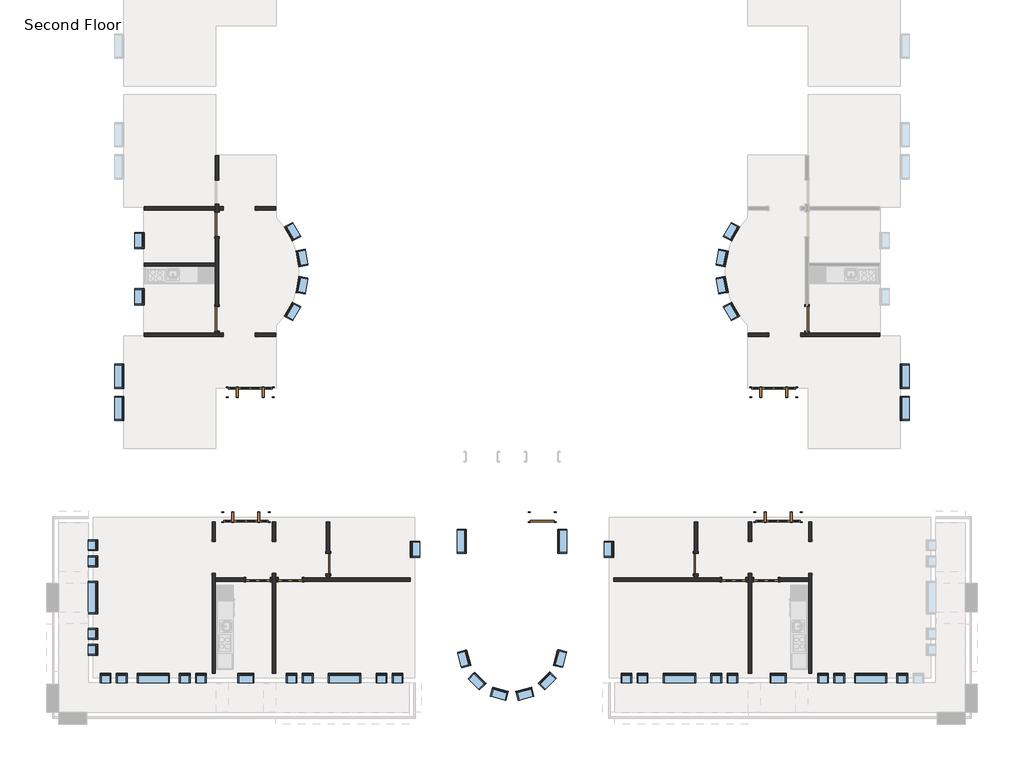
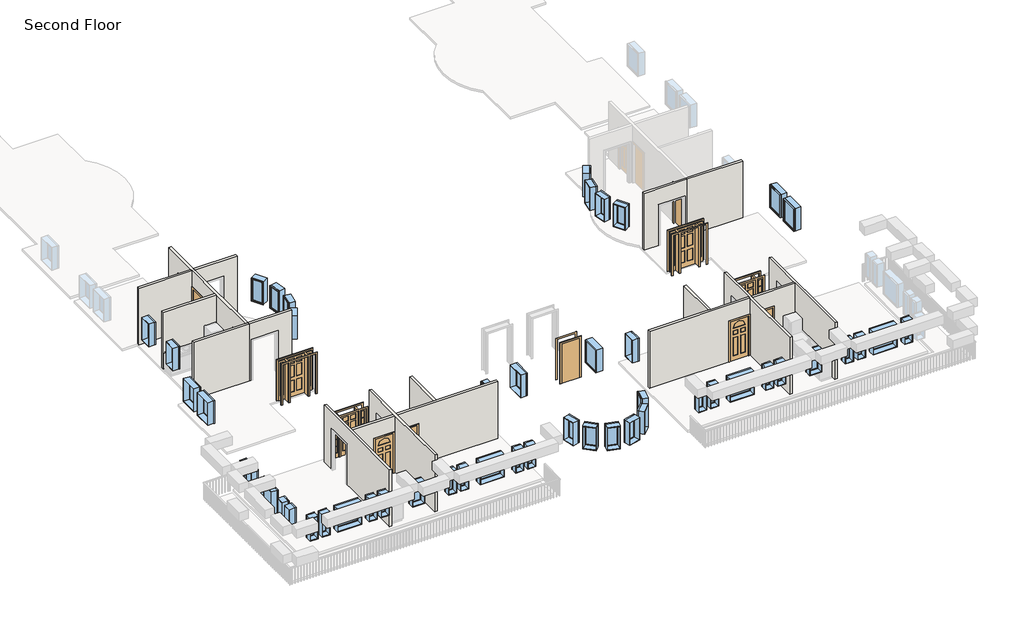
# One storey, part 1 of 4: 50 windows, 18 walls, 14 doors.
"""IFC4 building model written with IfcOpenShell, lengths in millimetres."""

from ifc_helpers import new_model, si_unit, frame, origin, place, context, project, spatial, polyline, outline, extrude, faceted_brep, transform, mapped, element, save
from components import door_829da954, door_2e3b4da2, door_4d6c7550, door_e36758a9, door_a1797ceb, door_a3eb833a, door_cc5399a4, door_dba5aa2e, door_ffdb1193, window_da97879f, window_d61ef850, window_60baf983, window_ed80354a, window_15c49d37, window_0e2fc6ce, window_6eb97611, window_d89bf842

model = new_model("IFC4")

# Units and contexts
model_context = context("Model", 3, world=origin())
ifc_project = project(units=[si_unit("LENGTHUNIT", "METRE", prefix="MILLI")], contexts=[model_context])

# Site, building, storey
site = spatial("IfcSite", under=ifc_project)
building = spatial("IfcBuilding", under=site)
storey = spatial("IfcBuildingStorey", under=building, Name="Second Floor", Elevation=3048.0)

# Doors
placement = place(None, origin())
door_shape = door_829da954(model_context)
element("IfcDoor", 1, ObjectType="Single-Decorative 2 : 36\" x 84\"", at=placement, inside=storey, context=model_context, shape_type="MappedRepresentation", body=[
    mapped(door_shape, transform((-6669.0589563, -30331.8808133, 3048.0), x_axis=(1.0, 0.0, 0.0), y_axis=(0.0, 1.0, 0.0), z_axis=(0.0, 0.0, 1.0))),
])
element("IfcDoor", 2, ObjectType="Single-Decorative 2 : 36\" x 84\"", at=placement, inside=storey, context=model_context, shape_type="MappedRepresentation", body=[
    mapped(door_shape, transform((-24674.4839563, -30331.8808133, 3048.0), x_axis=(1.0, 0.0, 0.0), y_axis=(0.0, 1.0, 0.0), z_axis=(0.0, 0.0, 1.0))),
])
door_2_shape = door_2e3b4da2(model_context)
element("IfcDoor", 3, ObjectType="Single-Decorative 2 : 36\" x 84\"", at=placement, inside=storey, context=model_context, shape_type="MappedRepresentation", body=[
    mapped(door_2_shape, transform((-5449.8589563, -30331.8808133, 3048.0), x_axis=(-1.0, 0.0, 0.0), y_axis=(0.0, -1.0, 0.0), z_axis=(0.0, 0.0, 1.0))),
])
element("IfcDoor", 4, ObjectType="Single-Decorative 2 : 36\" x 84\"", at=placement, inside=storey, context=model_context, shape_type="MappedRepresentation", body=[
    mapped(door_2_shape, transform((-23455.2839563, -30331.8808133, 3048.0), x_axis=(-1.0, 0.0, 0.0), y_axis=(0.0, -1.0, 0.0), z_axis=(0.0, 0.0, 1.0))),
])
door_3_shape = door_4d6c7550(model_context)
element("IfcDoor", 5, ObjectType="Single-Flush : 30\" x 84\"", at=placement, inside=storey, context=model_context, shape_type="MappedRepresentation", body=[
    mapped(door_3_shape, transform((-22018.5964563, -29722.2808133, 3048.0), x_axis=(0.0, -1.0, 0.0), y_axis=(1.0, 0.0, 0.0), z_axis=(0.0, 0.0, 1.0))),
])
door_4_shape = door_e36758a9(model_context)
element("IfcDoor", 6, ObjectType="Single-Flush : 30\" x 84\"", at=placement, inside=storey, context=model_context, shape_type="MappedRepresentation", body=[
    mapped(door_4_shape, transform((-8105.7464563, -29722.2808133, 3048.0), x_axis=(0.0, -1.0, 0.0), y_axis=(1.0, 0.0, 0.0), z_axis=(0.0, 0.0, 1.0))),
])
door_5_shape = door_a1797ceb(model_context)
element("IfcDoor", 7, ObjectType="Single-Flush : 36\" x 84\"", at=placement, inside=storey, context=model_context, shape_type="MappedRepresentation", body=[
    mapped(door_5_shape, transform((-3900.4589563, -20451.2808133, 3048.0), x_axis=(0.0, -1.0, 0.0), y_axis=(1.0, 0.0, 0.0), z_axis=(0.0, 0.0, 1.0))),
])
element("IfcDoor", 8, ObjectType="Single-Flush : 36\" x 84\"", at=placement, inside=storey, context=model_context, shape_type="MappedRepresentation", body=[
    mapped(door_5_shape, transform((-26223.8839563, -16873.0558133, 3048.0), x_axis=(0.0, 1.0, 0.0), y_axis=(-1.0, 0.0, 0.0), z_axis=(0.0, 0.0, 1.0))),
])
door_6_shape = door_a3eb833a(model_context)
element("IfcDoor", 9, ObjectType="Single-Flush : 36\" x 84\"", at=placement, inside=storey, context=model_context, shape_type="MappedRepresentation", body=[
    mapped(door_6_shape, transform((-26223.8839563, -20451.2808133, 3048.0), x_axis=(0.0, -1.0, 0.0), y_axis=(1.0, 0.0, 0.0), z_axis=(0.0, 0.0, 1.0))),
])
door_7_shape = door_cc5399a4(model_context)
element("IfcDoor", 10, ObjectType="Single-Flush : 36\" x 84\"", at=placement, inside=storey, context=model_context, shape_type="MappedRepresentation", body=[
    mapped(door_7_shape, transform((-13919.1714563, -27958.5683133, 3048.0), x_axis=(1.0, 0.0, 0.0), y_axis=(0.0, 1.0, 0.0), z_axis=(0.0, 0.0, 1.0))),
])
door_8_shape = door_dba5aa2e(model_context)
element("IfcDoor", 11, ObjectType="Single-Raised Panel with Sidelights : 36\" x 84\"", at=placement, inside=storey, context=model_context, shape_type="MappedRepresentation", body=[
    mapped(door_8_shape, transform((-5156.1714563, -23234.1683133, 3048.0), x_axis=(-1.0, 0.0, 0.0), y_axis=(0.0, -1.0, 0.0), z_axis=(0.0, 0.0, 1.0))),
])
element("IfcDoor", 12, ObjectType="Single-Raised Panel with Sidelights : 36\" x 84\"", at=placement, inside=storey, context=model_context, shape_type="MappedRepresentation", body=[
    mapped(door_8_shape, transform((-25131.6839563, -27958.5683133, 3048.0), x_axis=(1.0, 0.0, 0.0), y_axis=(0.0, 1.0, 0.0), z_axis=(0.0, 0.0, 1.0))),
])
door_9_shape = door_ffdb1193(model_context)
element("IfcDoor", 13, ObjectType="Single-Raised Panel with Sidelights : 36\" x 84\"", at=placement, inside=storey, context=model_context, shape_type="MappedRepresentation", body=[
    mapped(door_9_shape, transform((-4992.6589563, -27958.5683133, 3048.0), x_axis=(-1.0, 0.0, 0.0), y_axis=(0.0, -1.0, 0.0), z_axis=(0.0, 0.0, 1.0))),
])
element("IfcDoor", 14, ObjectType="Single-Raised Panel with Sidelights : 36\" x 84\"", at=placement, inside=storey, context=model_context, shape_type="MappedRepresentation", body=[
    mapped(door_9_shape, transform((-24968.1714563, -23234.1683133, 3048.0), x_axis=(1.0, 0.0, 0.0), y_axis=(0.0, 1.0, 0.0), z_axis=(0.0, 0.0, 1.0))),
])

# Walls
element("IfcWall", 15, ObjectType="Interior - 5\" Partition (2-hr)", at=placement, inside=storey, context=model_context, shape_type="Brep", body=[
    faceted_brep([(-3709.9589563, -33878.3558133, 3048.0), (-3709.9589563, -30092.1683133, 3048.0), (-3709.9589563, -30092.1683133, 5181.6), (-3709.9589563, -28872.9683133, 5181.6), (-3709.9589563, -28872.9683133, 3048.0), (-3709.9589563, -28134.7808133, 3048.0), (-3709.9589563, -28134.7808133, 6096.0), (-3709.9589563, -33878.3558133, 6096.0), (-3836.9589563, -30092.1683133, 5181.6), (-3836.9589563, -30092.1683133, 3048.0), (-3836.9589563, -30268.3808133, 3048.0), (-3836.9589563, -30395.3808133, 3048.0), (-3836.9589563, -33878.3558133, 3048.0), (-3836.9589563, -33878.3558133, 6096.0), (-3836.9589563, -30395.3808133, 6096.0), (-3836.9589563, -30268.3808133, 6096.0), (-3836.9589563, -28134.7808133, 6096.0), (-3836.9589563, -28134.7808133, 3048.0), (-3836.9589563, -28872.9683133, 3048.0), (-3836.9589563, -28872.9683133, 5181.6)], [[[0, 1, 2, 3, 4, 5, 6, 7]], [[8, 9, 10, 11, 12, 13, 14, 15, 16, 17, 18, 19]], [[12, 11, 10, 9, 1, 0]], [[18, 17, 5, 4]], [[7, 6, 16, 15, 14, 13]], [[0, 7, 13, 12]], [[6, 5, 17, 16]], [[4, 3, 19, 18]], [[2, 1, 9, 8]], [[3, 2, 8, 19]]]),
])
element("IfcWall", 16, ObjectType="Interior - 5\" Partition (2-hr)", at=placement, inside=storey, context=model_context, shape_type="Brep", body=[
    faceted_brep([(-5995.9589563, -28872.9683133, 5181.6), (-5995.9589563, -28872.9683133, 3048.0), (-5995.9589563, -28134.7808133, 3048.0), (-5995.9589563, -28134.7808133, 6096.0), (-5995.9589563, -30268.3808133, 6096.0), (-5995.9589563, -30395.3808133, 6096.0), (-5995.9589563, -33878.3558133, 6096.0), (-5995.9589563, -33878.3558133, 3048.0), (-5995.9589563, -30395.3808133, 3048.0), (-5995.9589563, -30268.3808133, 3048.0), (-5995.9589563, -30092.1683133, 3048.0), (-5995.9589563, -30092.1683133, 5181.6), (-6122.9589563, -28134.7808133, 3048.0), (-6122.9589563, -28872.9683133, 3048.0), (-6122.9589563, -28872.9683133, 5181.6), (-6122.9589563, -30092.1683133, 5181.6), (-6122.9589563, -30092.1683133, 3048.0), (-6122.9589563, -30268.3808133, 3048.0), (-6122.9589563, -30395.3808133, 3048.0), (-6122.9589563, -33878.3558133, 3048.0), (-6122.9589563, -33878.3558133, 6096.0), (-6122.9589563, -30395.3808133, 6096.0), (-6122.9589563, -30268.3808133, 6096.0), (-6122.9589563, -28134.7808133, 6096.0)], [[[0, 1, 2, 3, 4, 5, 6, 7, 8, 9, 10, 11]], [[12, 13, 14, 15, 16, 17, 18, 19, 20, 21, 22, 23]], [[2, 1, 13, 12]], [[10, 9, 8, 7, 19, 18, 17, 16]], [[6, 5, 4, 3, 23, 22, 21, 20]], [[7, 6, 20, 19]], [[3, 2, 12, 23]], [[16, 15, 11, 10]], [[14, 13, 1, 0]], [[15, 14, 0, 11]]]),
])
element("IfcWall", 17, ObjectType="Interior - 5\" Partition (2-hr)", at=placement, inside=storey, context=model_context, shape_type="Brep", body=[
    faceted_brep([(-6211.8589563, -30395.3808133, 5181.6), (-6211.8589563, -30395.3808133, 3048.0), (-6122.9589563, -30395.3808133, 3048.0), (-6122.9589563, -30395.3808133, 6096.0), (-11217.2464563, -30395.3808133, 6096.0), (-11217.2464563, -30395.3808133, 3048.0), (-7126.2589563, -30395.3808133, 3048.0), (-7126.2589563, -30395.3808133, 5181.6), (-6122.9589563, -30268.3808133, 3048.0), (-6211.8589563, -30268.3808133, 3048.0), (-6211.8589563, -30268.3808133, 5181.6), (-7126.2589563, -30268.3808133, 5181.6), (-7126.2589563, -30268.3808133, 3048.0), (-8042.2464563, -30268.3808133, 3048.0), (-8169.2464563, -30268.3808133, 3048.0), (-11217.2464563, -30268.3808133, 3048.0), (-11217.2464563, -30268.3808133, 6096.0), (-8169.2464563, -30268.3808133, 6096.0), (-8042.2464563, -30268.3808133, 6096.0), (-6122.9589563, -30268.3808133, 6096.0)], [[[0, 1, 2, 3, 4, 5, 6, 7]], [[8, 9, 10, 11, 12, 13, 14, 15, 16, 17, 18, 19]], [[2, 1, 9, 8]], [[6, 5, 15, 14, 13, 12]], [[4, 3, 19, 18, 17, 16]], [[3, 2, 8, 19]], [[5, 4, 16, 15]], [[10, 9, 1, 0]], [[11, 10, 0, 7]], [[12, 11, 7, 6]]]),
])
element("IfcWall", 18, ObjectType="Interior - 5\" Partition (2-hr)", at=placement, inside=storey, context=model_context, shape_type="SweptSolid", body=[
    extrude(outline(polyline([(-30103.2808133, 5181.6), (-30103.2808133, 3048.0), (-30268.3808133, 3048.0), (-30268.3808133, 6096.0), (-28134.7808133, 6096.0), (-28134.7808133, 3048.0), (-29341.2808133, 3048.0), (-29341.2808133, 5181.6), (-30103.2808133, 5181.6)])), frame((-8169.2464563, 0.0, 0.0), z_axis=(1.0, 0.0, 0.0), x_axis=(0.0, 1.0, 0.0)), (0.0, 0.0, 1.0), 127.0),
])
element("IfcWall", 19, ObjectType="Interior - 5\" Partition (2-hr)", at=placement, inside=storey, context=model_context, shape_type="SweptSolid", body=[
    extrude(outline(polyline([(3048.0, -5995.9589563), (3048.0, -5907.0589563), (5181.6, -5907.0589563), (5181.6, -4992.6589563), (3048.0, -4992.6589563), (3048.0, -3836.9589563), (6096.0, -3836.9589563), (6096.0, -5995.9589563), (3048.0, -5995.9589563)])), frame((0.0, -30395.3808133, 0.0), z_axis=(0.0, 1.0, 0.0), x_axis=(0.0, 0.0, 1.0)), (0.0, 0.0, 1.0), 127.0),
])
element("IfcWall", 20, ObjectType="Interior - 5\" Partition (2-hr)", at=placement, inside=storey, context=model_context, shape_type="Brep", body=[
    faceted_brep([(-1141.3839563, -20997.3808133, 3048.0), (-3836.9589563, -20997.3808133, 3048.0), (-3963.9589563, -20997.3808133, 3048.0), (-3963.9589563, -20997.3808133, 6096.0), (-3836.9589563, -20997.3808133, 6096.0), (-1141.3839563, -20997.3808133, 6096.0), (-1141.3839563, -21124.3808133, 3048.0), (-1141.3839563, -21124.3808133, 6096.0), (-3963.9589563, -21124.3808133, 6096.0), (-3963.9589563, -21124.3808133, 3048.0)], [[[0, 1, 2, 3, 4, 5]], [[6, 7, 8, 9]], [[2, 1, 0, 6, 9]], [[5, 4, 3, 8, 7]], [[3, 2, 9, 8]], [[0, 5, 7, 6]]]),
])
element("IfcWall", 21, ObjectType="Interior - 5\" Partition (2-hr)", at=placement, inside=storey, context=model_context, shape_type="SweptSolid", body=[
    extrude(outline(polyline([(5181.6, -4129.0589563), (3048.0, -4129.0589563), (3048.0, -3963.9589563), (6096.0, -3963.9589563), (6096.0, -6122.9589563), (3048.0, -6122.9589563), (3048.0, -5348.2589563), (5181.6, -5348.2589563), (5181.6, -4129.0589563)])), frame((0.0, -21124.3808133, 0.0), z_axis=(0.0, 1.0, 0.0), x_axis=(0.0, 0.0, 1.0)), (0.0, 0.0, 1.0), 127.0),
])
element("IfcWall", 22, ObjectType="Interior - 5\" Partition (2-hr)", at=placement, inside=storey, context=model_context, shape_type="Brep", body=[
    faceted_brep([(-26287.3839563, -33878.3558133, 3048.0), (-26287.3839563, -30395.3808133, 3048.0), (-26287.3839563, -30268.3808133, 3048.0), (-26287.3839563, -30092.1683133, 3048.0), (-26287.3839563, -30092.1683133, 5181.6), (-26287.3839563, -28872.9683133, 5181.6), (-26287.3839563, -28872.9683133, 3048.0), (-26287.3839563, -28134.7808133, 3048.0), (-26287.3839563, -28134.7808133, 6096.0), (-26287.3839563, -30268.3808133, 6096.0), (-26287.3839563, -30395.3808133, 6096.0), (-26287.3839563, -33878.3558133, 6096.0), (-26414.3839563, -30092.1683133, 5181.6), (-26414.3839563, -30092.1683133, 3048.0), (-26414.3839563, -33878.3558133, 3048.0), (-26414.3839563, -33878.3558133, 6096.0), (-26414.3839563, -28134.7808133, 6096.0), (-26414.3839563, -28134.7808133, 3048.0), (-26414.3839563, -28872.9683133, 3048.0), (-26414.3839563, -28872.9683133, 5181.6)], [[[0, 1, 2, 3, 4, 5, 6, 7, 8, 9, 10, 11]], [[12, 13, 14, 15, 16, 17, 18, 19]], [[14, 13, 3, 2, 1, 0]], [[18, 17, 7, 6]], [[11, 10, 9, 8, 16, 15]], [[0, 11, 15, 14]], [[8, 7, 17, 16]], [[6, 5, 19, 18]], [[4, 3, 13, 12]], [[5, 4, 12, 19]]]),
])
element("IfcWall", 23, ObjectType="Interior - 5\" Partition (2-hr)", at=placement, inside=storey, context=model_context, shape_type="Brep", body=[
    faceted_brep([(-24001.3839563, -28872.9683133, 5181.6), (-24001.3839563, -28872.9683133, 3048.0), (-24001.3839563, -28134.7808133, 3048.0), (-24001.3839563, -28134.7808133, 6096.0), (-24001.3839563, -30268.3808133, 6096.0), (-24001.3839563, -30395.3808133, 6096.0), (-24001.3839563, -33878.3558133, 6096.0), (-24001.3839563, -33878.3558133, 3048.0), (-24001.3839563, -30395.3808133, 3048.0), (-24001.3839563, -30268.3808133, 3048.0), (-24001.3839563, -30092.1683133, 3048.0), (-24001.3839563, -30092.1683133, 5181.6), (-24128.3839563, -28134.7808133, 3048.0), (-24128.3839563, -28872.9683133, 3048.0), (-24128.3839563, -28872.9683133, 5181.6), (-24128.3839563, -30092.1683133, 5181.6), (-24128.3839563, -30092.1683133, 3048.0), (-24128.3839563, -30268.3808133, 3048.0), (-24128.3839563, -30395.3808133, 3048.0), (-24128.3839563, -33878.3558133, 3048.0), (-24128.3839563, -33878.3558133, 6096.0), (-24128.3839563, -30395.3808133, 6096.0), (-24128.3839563, -30268.3808133, 6096.0), (-24128.3839563, -28134.7808133, 6096.0)], [[[0, 1, 2, 3, 4, 5, 6, 7, 8, 9, 10, 11]], [[12, 13, 14, 15, 16, 17, 18, 19, 20, 21, 22, 23]], [[2, 1, 13, 12]], [[10, 9, 8, 7, 19, 18, 17, 16]], [[6, 5, 4, 3, 23, 22, 21, 20]], [[7, 6, 20, 19]], [[3, 2, 12, 23]], [[16, 15, 11, 10]], [[14, 13, 1, 0]], [[15, 14, 0, 11]]]),
])
element("IfcWall", 24, ObjectType="Interior - 5\" Partition (2-hr)", at=placement, inside=storey, context=model_context, shape_type="Brep", body=[
    faceted_brep([(-23912.4839563, -30268.3808133, 5181.6), (-23912.4839563, -30268.3808133, 3048.0), (-24001.3839563, -30268.3808133, 3048.0), (-24001.3839563, -30268.3808133, 6096.0), (-22082.0964563, -30268.3808133, 6096.0), (-21955.0964563, -30268.3808133, 6096.0), (-18907.0964563, -30268.3808133, 6096.0), (-18907.0964563, -30268.3808133, 3048.0), (-21955.0964563, -30268.3808133, 3048.0), (-22082.0964563, -30268.3808133, 3048.0), (-22998.0839563, -30268.3808133, 3048.0), (-22998.0839563, -30268.3808133, 5181.6), (-24001.3839563, -30395.3808133, 3048.0), (-23912.4839563, -30395.3808133, 3048.0), (-23912.4839563, -30395.3808133, 5181.6), (-22998.0839563, -30395.3808133, 5181.6), (-22998.0839563, -30395.3808133, 3048.0), (-18907.0964563, -30395.3808133, 3048.0), (-18907.0964563, -30395.3808133, 6096.0), (-24001.3839563, -30395.3808133, 6096.0)], [[[0, 1, 2, 3, 4, 5, 6, 7, 8, 9, 10, 11]], [[12, 13, 14, 15, 16, 17, 18, 19]], [[2, 1, 13, 12]], [[10, 9, 8, 7, 17, 16]], [[6, 5, 4, 3, 19, 18]], [[3, 2, 12, 19]], [[7, 6, 18, 17]], [[14, 13, 1, 0]], [[15, 14, 0, 11]], [[16, 15, 11, 10]]]),
])
element("IfcWall", 25, ObjectType="Interior - 5\" Partition (2-hr)", at=placement, inside=storey, context=model_context, shape_type="SweptSolid", body=[
    extrude(outline(polyline([(-30103.2808133, 5181.6), (-30103.2808133, 3048.0), (-30268.3808133, 3048.0), (-30268.3808133, 6096.0), (-28134.7808133, 6096.0), (-28134.7808133, 3048.0), (-29341.2808133, 3048.0), (-29341.2808133, 5181.6), (-30103.2808133, 5181.6)])), frame((-22082.0964563, 0.0, 0.0), z_axis=(1.0, 0.0, 0.0), x_axis=(0.0, 1.0, 0.0)), (0.0, 0.0, 1.0), 127.0),
])
element("IfcWall", 26, ObjectType="Interior - 5\" Partition (2-hr)", at=placement, inside=storey, context=model_context, shape_type="SweptSolid", body=[
    extrude(outline(polyline([(5181.6, -24217.2839563), (3048.0, -24217.2839563), (3048.0, -24128.3839563), (6096.0, -24128.3839563), (6096.0, -26287.3839563), (3048.0, -26287.3839563), (3048.0, -25131.6839563), (5181.6, -25131.6839563), (5181.6, -24217.2839563)])), frame((0.0, -30395.3808133, 0.0), z_axis=(0.0, 1.0, 0.0), x_axis=(0.0, 0.0, 1.0)), (0.0, 0.0, 1.0), 127.0),
])
element("IfcWall", 27, ObjectType="Interior - 5\" Partition (2-hr)", at=placement, inside=storey, context=model_context, shape_type="Brep", body=[
    faceted_brep([(-28982.9589563, -21124.3808133, 3048.0), (-26160.3839563, -21124.3808133, 3048.0), (-26160.3839563, -21124.3808133, 6096.0), (-28982.9589563, -21124.3808133, 6096.0), (-28982.9589563, -20997.3808133, 3048.0), (-28982.9589563, -20997.3808133, 6096.0), (-26287.3839563, -20997.3808133, 6096.0), (-26160.3839563, -20997.3808133, 6096.0), (-26160.3839563, -20997.3808133, 3048.0), (-26287.3839563, -20997.3808133, 3048.0)], [[[0, 1, 2, 3]], [[4, 5, 6, 7, 8, 9]], [[1, 0, 4, 9, 8]], [[3, 2, 7, 6, 5]], [[2, 1, 8, 7]], [[0, 3, 5, 4]]]),
])
element("IfcWall", 28, ObjectType="Interior - 5\" Partition (2-hr)", at=placement, inside=storey, context=model_context, shape_type="Brep", body=[
    faceted_brep([(-26287.3839563, -16111.0558133, 5181.6), (-26287.3839563, -16111.0558133, 3048.0), (-26287.3839563, -16199.9558133, 3048.0), (-26287.3839563, -16326.9558133, 3048.0), (-26287.3839563, -16415.8558133, 3048.0), (-26287.3839563, -16415.8558133, 5181.6), (-26287.3839563, -17330.2558133, 5181.6), (-26287.3839563, -17330.2558133, 3048.0), (-26287.3839563, -18333.5558133, 3048.0), (-26287.3839563, -18460.5558133, 3048.0), (-26287.3839563, -19994.0808133, 3048.0), (-26287.3839563, -19994.0808133, 5181.6), (-26287.3839563, -20908.4808133, 5181.6), (-26287.3839563, -20908.4808133, 3048.0), (-26287.3839563, -20997.3808133, 3048.0), (-26287.3839563, -20997.3808133, 6096.0), (-26287.3839563, -18460.5558133, 6096.0), (-26287.3839563, -18333.5558133, 6096.0), (-26287.3839563, -16326.9558133, 6096.0), (-26287.3839563, -16199.9558133, 6096.0), (-26287.3839563, -14266.3808133, 6096.0), (-26287.3839563, -14266.3808133, 3048.0), (-26287.3839563, -15196.6558133, 3048.0), (-26287.3839563, -15196.6558133, 5181.6), (-26160.3839563, -16415.8558133, 3048.0), (-26160.3839563, -16326.9558133, 3048.0), (-26160.3839563, -16199.9558133, 3048.0), (-26160.3839563, -16111.0558133, 3048.0), (-26160.3839563, -16111.0558133, 5181.6), (-26160.3839563, -15196.6558133, 5181.6), (-26160.3839563, -15196.6558133, 3048.0), (-26160.3839563, -14266.3808133, 3048.0), (-26160.3839563, -14266.3808133, 6096.0), (-26160.3839563, -16199.9558133, 6096.0), (-26160.3839563, -16326.9558133, 6096.0), (-26160.3839563, -20997.3808133, 6096.0), (-26160.3839563, -20997.3808133, 3048.0), (-26160.3839563, -20908.4808133, 3048.0), (-26160.3839563, -20908.4808133, 5181.6), (-26160.3839563, -19994.0808133, 5181.6), (-26160.3839563, -19994.0808133, 3048.0), (-26160.3839563, -17330.2558133, 3048.0), (-26160.3839563, -17330.2558133, 5181.6), (-26160.3839563, -16415.8558133, 5181.6)], [[[0, 1, 2, 3, 4, 5, 6, 7, 8, 9, 10, 11, 12, 13, 14, 15, 16, 17, 18, 19, 20, 21, 22, 23]], [[24, 25, 26, 27, 28, 29, 30, 31, 32, 33, 34, 35, 36, 37, 38, 39, 40, 41, 42, 43]], [[14, 13, 37, 36]], [[4, 3, 2, 1, 27, 26, 25, 24]], [[41, 40, 10, 9, 8, 7]], [[22, 21, 31, 30]], [[20, 19, 18, 17, 16, 15, 35, 34, 33, 32]], [[15, 14, 36, 35]], [[21, 20, 32, 31]], [[38, 37, 13, 12]], [[39, 38, 12, 11]], [[40, 39, 11, 10]], [[5, 4, 24, 43]], [[6, 5, 43, 42]], [[7, 6, 42, 41]], [[28, 27, 1, 0]], [[29, 28, 0, 23]], [[30, 29, 23, 22]]]),
])
element("IfcWall", 29, ObjectType="Interior - 5\" Partition (2-hr)", at=placement, inside=storey, context=model_context, shape_type="SweptSolid", body=[
    extrude(outline(polyline([(-26287.3839563, -16326.9558133), (-28982.9589563, -16326.9558133), (-28982.9589563, -16199.9558133), (-26287.3839563, -16199.9558133), (-26287.3839563, -16326.9558133)])), frame((0.0, 0.0, 3048.0), z_axis=(0.0, 0.0, 1.0), x_axis=(1.0, 0.0, 0.0)), (0.0, 0.0, 1.0), 3048.0),
])
element("IfcWall", 30, ObjectType="Interior - 5\" Partition (2-hr)", at=placement, inside=storey, context=model_context, shape_type="SweptSolid", body=[
    extrude(outline(polyline([(-28982.9589563, -18333.5558133), (-26287.3839563, -18333.5558133), (-26287.3839563, -18460.5558133), (-28982.9589563, -18460.5558133), (-28982.9589563, -18333.5558133)])), frame((0.0, 0.0, 3048.0), z_axis=(0.0, 0.0, 1.0), x_axis=(1.0, 0.0, 0.0)), (0.0, 0.0, 1.0), 3048.0),
])
element("IfcWall", 31, ObjectType="Interior - 5\" Partition (2-hr)", at=placement, inside=storey, context=model_context, shape_type="SweptSolid", body=[
    extrude(outline(polyline([(5181.6, -24776.0839563), (3048.0, -24776.0839563), (3048.0, -24001.3839563), (6096.0, -24001.3839563), (6096.0, -26160.3839563), (3048.0, -26160.3839563), (3048.0, -25995.2839563), (5181.6, -25995.2839563), (5181.6, -24776.0839563)])), frame((0.0, -16326.9558133, 0.0), z_axis=(0.0, 1.0, 0.0), x_axis=(0.0, 0.0, 1.0)), (0.0, 0.0, 1.0), 127.0),
])
element("IfcWall", 32, ObjectType="Interior - 5\" Partition (2-hr)", at=placement, inside=storey, context=model_context, shape_type="SweptSolid", body=[
    extrude(outline(polyline([(3048.0, -26160.3839563), (3048.0, -25995.2839563), (5181.6, -25995.2839563), (5181.6, -24776.0839563), (3048.0, -24776.0839563), (3048.0, -24001.3839563), (6096.0, -24001.3839563), (6096.0, -26160.3839563), (3048.0, -26160.3839563)])), frame((0.0, -21124.3808133, 0.0), z_axis=(0.0, 1.0, 0.0), x_axis=(0.0, 0.0, 1.0)), (0.0, 0.0, 1.0), 127.0),
])

# Windows
window_shape = window_da97879f(model_context)
element("IfcWindow", 33, ObjectType="Fixed : 16\" x 48\"", at=placement, inside=storey, context=model_context, shape_type="MappedRepresentation", body=[
    mapped(window_shape, transform((-6681.7589563, -34054.5683133, 3048.0), x_axis=(1.0, 0.0, 0.0), y_axis=(0.0, 1.0, 0.0), z_axis=(0.0, 0.0, 1.0))),
])
element("IfcWindow", 34, ObjectType="Fixed : 16\" x 48\"", at=placement, inside=storey, context=model_context, shape_type="MappedRepresentation", body=[
    mapped(window_shape, transform((-7291.3589563, -34054.5683133, 3048.0), x_axis=(1.0, 0.0, 0.0), y_axis=(0.0, 1.0, 0.0), z_axis=(0.0, 0.0, 1.0))),
])
element("IfcWindow", 35, ObjectType="Fixed : 16\" x 48\"", at=placement, inside=storey, context=model_context, shape_type="MappedRepresentation", body=[
    mapped(window_shape, transform((-255.5589563, -34054.5683133, 3048.0), x_axis=(1.0, 0.0, 0.0), y_axis=(0.0, 1.0, 0.0), z_axis=(0.0, 0.0, 1.0))),
])
element("IfcWindow", 36, ObjectType="Fixed : 16\" x 48\"", at=placement, inside=storey, context=model_context, shape_type="MappedRepresentation", body=[
    mapped(window_shape, transform((-19353.1839563, -34054.5683133, 3048.0), x_axis=(1.0, 0.0, 0.0), y_axis=(0.0, 1.0, 0.0), z_axis=(0.0, 0.0, 1.0))),
])
element("IfcWindow", 37, ObjectType="Fixed : 16\" x 48\"", at=placement, inside=storey, context=model_context, shape_type="MappedRepresentation", body=[
    mapped(window_shape, transform((-19962.7839563, -34054.5683133, 3048.0), x_axis=(1.0, 0.0, 0.0), y_axis=(0.0, 1.0, 0.0), z_axis=(0.0, 0.0, 1.0))),
])
element("IfcWindow", 38, ObjectType="Fixed : 16\" x 48\"", at=placement, inside=storey, context=model_context, shape_type="MappedRepresentation", body=[
    mapped(window_shape, transform((-26795.3839563, -34054.5683133, 3048.0), x_axis=(1.0, 0.0, 0.0), y_axis=(0.0, 1.0, 0.0), z_axis=(0.0, 0.0, 1.0))),
])
element("IfcWindow", 39, ObjectType="Fixed : 16\" x 48\"", at=placement, inside=storey, context=model_context, shape_type="MappedRepresentation", body=[
    mapped(window_shape, transform((-27404.9839563, -34054.5683133, 3048.0), x_axis=(1.0, 0.0, 0.0), y_axis=(0.0, 1.0, 0.0), z_axis=(0.0, 0.0, 1.0))),
])
element("IfcWindow", 40, ObjectType="Fixed : 16\" x 48\"", at=placement, inside=storey, context=model_context, shape_type="MappedRepresentation", body=[
    mapped(window_shape, transform((-30922.8839563, -33025.8683133, 3048.0), x_axis=(0.0, -1.0, 0.0), y_axis=(1.0, 0.0, 0.0), z_axis=(0.0, 0.0, 1.0))),
])
element("IfcWindow", 41, ObjectType="Fixed : 16\" x 48\"", at=placement, inside=storey, context=model_context, shape_type="MappedRepresentation", body=[
    mapped(window_shape, transform((-30922.8839563, -32416.2683133, 3048.0), x_axis=(0.0, -1.0, 0.0), y_axis=(1.0, 0.0, 0.0), z_axis=(0.0, 0.0, 1.0))),
])
window_2_shape = window_d61ef850(model_context)
element("IfcWindow", 42, ObjectType="Fixed : 16\" x 48\"", at=placement, inside=storey, context=model_context, shape_type="MappedRepresentation", body=[
    mapped(window_2_shape, transform((-10771.1589563, -34054.5683133, 3048.0), x_axis=(-1.0, 0.0, 0.0), y_axis=(0.0, -1.0, 0.0), z_axis=(0.0, 0.0, 1.0))),
])
element("IfcWindow", 43, ObjectType="Fixed : 16\" x 48\"", at=placement, inside=storey, context=model_context, shape_type="MappedRepresentation", body=[
    mapped(window_2_shape, transform((-10161.5589563, -34054.5683133, 3048.0), x_axis=(-1.0, 0.0, 0.0), y_axis=(0.0, -1.0, 0.0), z_axis=(0.0, 0.0, 1.0))),
])
element("IfcWindow", 44, ObjectType="Fixed : 16\" x 48\"", at=placement, inside=storey, context=model_context, shape_type="MappedRepresentation", body=[
    mapped(window_2_shape, transform((-3328.9589563, -34054.5683133, 3048.0), x_axis=(-1.0, 0.0, 0.0), y_axis=(0.0, -1.0, 0.0), z_axis=(0.0, 0.0, 1.0))),
])
element("IfcWindow", 45, ObjectType="Fixed : 16\" x 48\"", at=placement, inside=storey, context=model_context, shape_type="MappedRepresentation", body=[
    mapped(window_2_shape, transform((-2719.3589563, -34054.5683133, 3048.0), x_axis=(-1.0, 0.0, 0.0), y_axis=(0.0, -1.0, 0.0), z_axis=(0.0, 0.0, 1.0))),
])
element("IfcWindow", 46, ObjectType="Fixed : 16\" x 48\"", at=placement, inside=storey, context=model_context, shape_type="MappedRepresentation", body=[
    mapped(window_2_shape, transform((-23442.5839563, -34054.5683133, 3048.0), x_axis=(-1.0, 0.0, 0.0), y_axis=(0.0, -1.0, 0.0), z_axis=(0.0, 0.0, 1.0))),
])
element("IfcWindow", 47, ObjectType="Fixed : 16\" x 48\"", at=placement, inside=storey, context=model_context, shape_type="MappedRepresentation", body=[
    mapped(window_2_shape, transform((-22832.9839563, -34054.5683133, 3048.0), x_axis=(-1.0, 0.0, 0.0), y_axis=(0.0, -1.0, 0.0), z_axis=(0.0, 0.0, 1.0))),
])
element("IfcWindow", 48, ObjectType="Fixed : 16\" x 48\"", at=placement, inside=storey, context=model_context, shape_type="MappedRepresentation", body=[
    mapped(window_2_shape, transform((-30478.3839563, -34054.5683133, 3048.0), x_axis=(-1.0, 0.0, 0.0), y_axis=(0.0, -1.0, 0.0), z_axis=(0.0, 0.0, 1.0))),
])
element("IfcWindow", 49, ObjectType="Fixed : 16\" x 48\"", at=placement, inside=storey, context=model_context, shape_type="MappedRepresentation", body=[
    mapped(window_2_shape, transform((-29868.7839563, -34054.5683133, 3048.0), x_axis=(-1.0, 0.0, 0.0), y_axis=(0.0, -1.0, 0.0), z_axis=(0.0, 0.0, 1.0))),
])
element("IfcWindow", 50, ObjectType="Fixed : 16\" x 48\"", at=placement, inside=storey, context=model_context, shape_type="MappedRepresentation", body=[
    mapped(window_2_shape, transform((-30922.8839563, -28987.2683133, 3048.0), x_axis=(0.0, 1.0, 0.0), y_axis=(-1.0, 0.0, 0.0), z_axis=(0.0, 0.0, 1.0))),
])
element("IfcWindow", 51, ObjectType="Fixed : 16\" x 48\"", at=placement, inside=storey, context=model_context, shape_type="MappedRepresentation", body=[
    mapped(window_2_shape, transform((-30922.8839563, -29596.8683133, 3048.0), x_axis=(0.0, 1.0, 0.0), y_axis=(-1.0, 0.0, 0.0), z_axis=(0.0, 0.0, 1.0))),
])
window_3_shape = window_60baf983(model_context)
element("IfcWindow", 52, ObjectType="Fixed : 24\" x 48\"", at=placement, inside=storey, context=model_context, shape_type="MappedRepresentation", body=[
    mapped(window_3_shape, transform((-6773.5999888, -17190.9055042, 3048.0), x_axis=(-0.4961910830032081, -0.8682133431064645, 0.0), y_axis=(0.8682133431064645, -0.4961910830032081, 0.0), z_axis=(0.0, 0.0, 1.0))),
])
element("IfcWindow", 53, ObjectType="Fixed : 24\" x 48\"", at=placement, inside=storey, context=model_context, shape_type="MappedRepresentation", body=[
    mapped(window_3_shape, transform((-7116.7194505, -18185.1246771, 3048.0), x_axis=(-0.16973229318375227, -0.9854902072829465, 0.0), y_axis=(0.9854902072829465, -0.16973229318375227, 0.0), z_axis=(0.0, 0.0, 1.0))),
])
element("IfcWindow", 54, ObjectType="Fixed : 24\" x 48\"", at=placement, inside=storey, context=model_context, shape_type="MappedRepresentation", body=[
    mapped(window_3_shape, transform((-25093.5839563, -34054.5683133, 3048.0), x_axis=(1.0, 0.0, 0.0), y_axis=(0.0, 1.0, 0.0), z_axis=(0.0, 0.0, 1.0))),
])
element("IfcWindow", 55, ObjectType="Fixed : 24\" x 48\"", at=placement, inside=storey, context=model_context, shape_type="MappedRepresentation", body=[
    mapped(window_3_shape, transform((-18730.8839563, -29139.6683133, 3048.0), x_axis=(0.0, 1.0, 0.0), y_axis=(-1.0, 0.0, 0.0), z_axis=(0.0, 0.0, 1.0))),
])
element("IfcWindow", 56, ObjectType="Fixed : 24\" x 48\"", at=placement, inside=storey, context=model_context, shape_type="MappedRepresentation", body=[
    mapped(window_3_shape, transform((-23349.1961911, -20134.3150929, 3048.0), x_axis=(0.49619108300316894, 0.8682133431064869, 0.0), y_axis=(-0.8682133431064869, 0.49619108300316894, 0.0), z_axis=(0.0, 0.0, 1.0))),
])
element("IfcWindow", 57, ObjectType="Fixed : 24\" x 48\"", at=placement, inside=storey, context=model_context, shape_type="MappedRepresentation", body=[
    mapped(window_3_shape, transform((-23005.8677992, -19139.5143296, 3048.0), x_axis=(0.16973229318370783, 0.9854902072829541, 0.0), y_axis=(-0.9854902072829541, 0.16973229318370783, 0.0), z_axis=(0.0, 0.0, 1.0))),
])
window_4_shape = window_ed80354a(model_context)
element("IfcWindow", 58, ObjectType="Fixed : 24\" x 48\"", at=placement, inside=storey, context=model_context, shape_type="MappedRepresentation", body=[
    mapped(window_4_shape, transform((-5030.7589563, -34054.5683133, 3048.0), x_axis=(-1.0, 0.0, 0.0), y_axis=(0.0, -1.0, 0.0), z_axis=(0.0, 0.0, 1.0))),
])
element("IfcWindow", 59, ObjectType="Fixed : 24\" x 48\"", at=placement, inside=storey, context=model_context, shape_type="MappedRepresentation", body=[
    mapped(window_4_shape, transform((-11393.4589563, -29139.6683133, 3048.0), x_axis=(0.0, 1.0, 0.0), y_axis=(-1.0, 0.0, 0.0), z_axis=(0.0, 0.0, 1.0))),
])
element("IfcWindow", 60, ObjectType="Fixed : 24\" x 48\"", at=placement, inside=storey, context=model_context, shape_type="MappedRepresentation", body=[
    mapped(window_4_shape, transform((-16884.5848795, -33290.1635131, 3048.0), x_axis=(-0.2617614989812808, 0.9651325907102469, 0.0), y_axis=(-0.9651325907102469, -0.2617614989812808, 0.0), z_axis=(0.0, 0.0, 1.0))),
])
element("IfcWindow", 61, ObjectType="Fixed : 24\" x 48\"", at=placement, inside=storey, context=model_context, shape_type="MappedRepresentation", body=[
    mapped(window_4_shape, transform((-16413.0301771, -34140.4392215, 3048.0), x_axis=(-0.7092584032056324, 0.7049485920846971, 0.0), y_axis=(-0.7049485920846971, -0.7092584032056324, 0.0), z_axis=(0.0, 0.0, 1.0))),
])
element("IfcWindow", 62, ObjectType="Fixed : 24\" x 48\"", at=placement, inside=storey, context=model_context, shape_type="MappedRepresentation", body=[
    mapped(window_4_shape, transform((-15579.5139714, -34641.0222339, 3048.0), x_axis=(-0.9667100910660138, 0.2558741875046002, 0.0), y_axis=(-0.2558741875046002, -0.9667100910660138, 0.0), z_axis=(0.0, 0.0, 1.0))),
])
element("IfcWindow", 63, ObjectType="Fixed : 24\" x 48\"", at=placement, inside=storey, context=model_context, shape_type="MappedRepresentation", body=[
    mapped(window_4_shape, transform((-14607.3762565, -34657.7817365, 3048.0), x_axis=(-0.9651325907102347, -0.2617614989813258, 0.0), y_axis=(0.2617614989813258, -0.9651325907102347, 0.0), z_axis=(0.0, 0.0, 1.0))),
])
element("IfcWindow", 64, ObjectType="Fixed : 24\" x 48\"", at=placement, inside=storey, context=model_context, shape_type="MappedRepresentation", body=[
    mapped(window_4_shape, transform((-13757.1005482, -34186.2270341, 3048.0), x_axis=(-0.704948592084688, -0.7092584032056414, 0.0), y_axis=(0.7092584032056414, -0.704948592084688, 0.0), z_axis=(0.0, 0.0, 1.0))),
])
element("IfcWindow", 65, ObjectType="Fixed : 24\" x 48\"", at=placement, inside=storey, context=model_context, shape_type="MappedRepresentation", body=[
    mapped(window_4_shape, transform((-13256.5175357, -33352.7108284, 3048.0), x_axis=(-0.25587418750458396, -0.9667100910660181, 0.0), y_axis=(0.9667100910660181, -0.25587418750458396, 0.0), z_axis=(0.0, 0.0, 1.0))),
])
element("IfcWindow", 66, ObjectType="Fixed : 24\" x 48\"", at=placement, inside=storey, context=model_context, shape_type="MappedRepresentation", body=[
    mapped(window_4_shape, transform((-6773.5999888, -20133.4311225, 3048.0), x_axis=(-0.4961910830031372, 0.868213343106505, 0.0), y_axis=(-0.868213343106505, -0.4961910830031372, 0.0), z_axis=(0.0, 0.0, 1.0))),
])
element("IfcWindow", 67, ObjectType="Fixed : 24\" x 48\"", at=placement, inside=storey, context=model_context, shape_type="MappedRepresentation", body=[
    mapped(window_4_shape, transform((-7116.7194505, -19139.2119495, 3048.0), x_axis=(-0.1697322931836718, 0.9854902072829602, 0.0), y_axis=(-0.9854902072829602, -0.1697322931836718, 0.0), z_axis=(0.0, 0.0, 1.0))),
])
element("IfcWindow", 68, ObjectType="Fixed : 24\" x 48\"", at=placement, inside=storey, context=model_context, shape_type="MappedRepresentation", body=[
    mapped(window_4_shape, transform((-29159.1714563, -19578.1558133, 3048.0), x_axis=(0.0, 1.0, 0.0), y_axis=(-1.0, 0.0, 0.0), z_axis=(0.0, 0.0, 1.0))),
])
element("IfcWindow", 69, ObjectType="Fixed : 24\" x 48\"", at=placement, inside=storey, context=model_context, shape_type="MappedRepresentation", body=[
    mapped(window_4_shape, transform((-29159.1714563, -17444.5558133, 3048.0), x_axis=(0.0, 1.0, 0.0), y_axis=(-1.0, 0.0, 0.0), z_axis=(0.0, 0.0, 1.0))),
])
element("IfcWindow", 70, ObjectType="Fixed : 24\" x 48\"", at=placement, inside=storey, context=model_context, shape_type="MappedRepresentation", body=[
    mapped(window_4_shape, transform((-23349.1961911, -17190.0215337, 3048.0), x_axis=(0.4961910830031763, -0.8682133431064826, 0.0), y_axis=(0.8682133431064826, 0.4961910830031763, 0.0), z_axis=(0.0, 0.0, 1.0))),
])
element("IfcWindow", 71, ObjectType="Fixed : 24\" x 48\"", at=placement, inside=storey, context=model_context, shape_type="MappedRepresentation", body=[
    mapped(window_4_shape, transform((-23005.8677992, -18184.822297, 3048.0), x_axis=(0.16973229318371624, -0.9854902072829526, 0.0), y_axis=(0.9854902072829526, 0.16973229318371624, 0.0), z_axis=(0.0, 0.0, 1.0))),
])
window_5_shape = window_15c49d37(model_context)
element("IfcWindow", 72, ObjectType="Fixed : 36\" x 48\"", at=placement, inside=storey, context=model_context, shape_type="MappedRepresentation", body=[
    mapped(window_5_shape, transform((-203.1714563, -23805.6683133, 3048.0), x_axis=(0.0, 1.0, 0.0), y_axis=(-1.0, 0.0, 0.0), z_axis=(0.0, 0.0, 1.0))),
])
element("IfcWindow", 73, ObjectType="Fixed : 36\" x 48\"", at=placement, inside=storey, context=model_context, shape_type="MappedRepresentation", body=[
    mapped(window_5_shape, transform((-203.1714563, -22586.4683133, 3048.0), x_axis=(0.0, 1.0, 0.0), y_axis=(-1.0, 0.0, 0.0), z_axis=(0.0, 0.0, 1.0))),
])
window_6_shape = window_0e2fc6ce(model_context)
element("IfcWindow", 74, ObjectType="Fixed : 36\" x 48\"", at=placement, inside=storey, context=model_context, shape_type="MappedRepresentation", body=[
    mapped(window_6_shape, transform((-16967.1714563, -28834.8683133, 3048.0), x_axis=(0.0, 1.0, 0.0), y_axis=(-1.0, 0.0, 0.0), z_axis=(0.0, 0.0, 1.0))),
])
element("IfcWindow", 75, ObjectType="Fixed : 36\" x 48\"", at=placement, inside=storey, context=model_context, shape_type="MappedRepresentation", body=[
    mapped(window_6_shape, transform((-13157.1714563, -28911.0683133, 3048.0), x_axis=(0.0, -1.0, 0.0), y_axis=(1.0, 0.0, 0.0), z_axis=(0.0, 0.0, 1.0))),
])
element("IfcWindow", 76, ObjectType="Fixed : 36\" x 48\"", at=placement, inside=storey, context=model_context, shape_type="MappedRepresentation", body=[
    mapped(window_6_shape, transform((-29921.1714563, -23805.6683133, 3048.0), x_axis=(0.0, 1.0, 0.0), y_axis=(-1.0, 0.0, 0.0), z_axis=(0.0, 0.0, 1.0))),
])
element("IfcWindow", 77, ObjectType="Fixed : 36\" x 48\"", at=placement, inside=storey, context=model_context, shape_type="MappedRepresentation", body=[
    mapped(window_6_shape, transform((-29921.1714563, -22586.4683133, 3048.0), x_axis=(0.0, 1.0, 0.0), y_axis=(-1.0, 0.0, 0.0), z_axis=(0.0, 0.0, 1.0))),
])
window_7_shape = window_6eb97611(model_context)
element("IfcWindow", 78, ObjectType="Fixed : 48\" x 48\"", at=placement, inside=storey, context=model_context, shape_type="MappedRepresentation", body=[
    mapped(window_7_shape, transform((-21359.7839563, -34054.5683133, 3048.0), x_axis=(1.0, 0.0, 0.0), y_axis=(0.0, 1.0, 0.0), z_axis=(0.0, 0.0, 1.0))),
])
element("IfcWindow", 79, ObjectType="Fixed : 48\" x 48\"", at=placement, inside=storey, context=model_context, shape_type="MappedRepresentation", body=[
    mapped(window_7_shape, transform((-28598.7839563, -34054.5683133, 3048.0), x_axis=(1.0, 0.0, 0.0), y_axis=(0.0, 1.0, 0.0), z_axis=(0.0, 0.0, 1.0))),
])
element("IfcWindow", 80, ObjectType="Fixed : 48\" x 48\"", at=placement, inside=storey, context=model_context, shape_type="MappedRepresentation", body=[
    mapped(window_7_shape, transform((-30922.8839563, -31044.6683133, 3048.0), x_axis=(0.0, -1.0, 0.0), y_axis=(1.0, 0.0, 0.0), z_axis=(0.0, 0.0, 1.0))),
])
window_8_shape = window_d89bf842(model_context)
element("IfcWindow", 81, ObjectType="Fixed : 48\" x 48\"", at=placement, inside=storey, context=model_context, shape_type="MappedRepresentation", body=[
    mapped(window_8_shape, transform((-8764.5589563, -34054.5683133, 3048.0), x_axis=(-1.0, 0.0, 0.0), y_axis=(0.0, -1.0, 0.0), z_axis=(0.0, 0.0, 1.0))),
])
element("IfcWindow", 82, ObjectType="Fixed : 48\" x 48\"", at=placement, inside=storey, context=model_context, shape_type="MappedRepresentation", body=[
    mapped(window_8_shape, transform((-1525.5589563, -34054.5683133, 3048.0), x_axis=(-1.0, 0.0, 0.0), y_axis=(0.0, -1.0, 0.0), z_axis=(0.0, 0.0, 1.0))),
])

save(model, "model.ifc")
